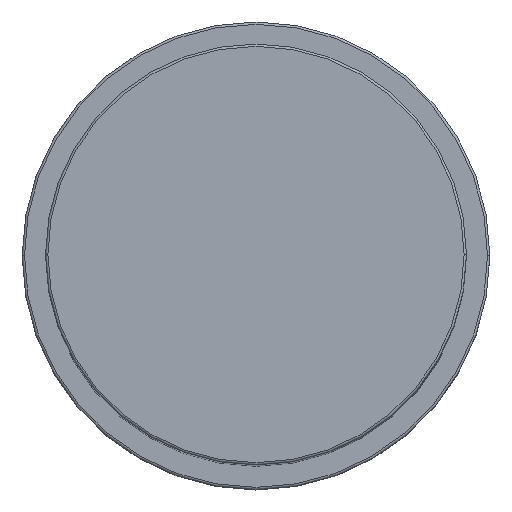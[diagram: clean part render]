
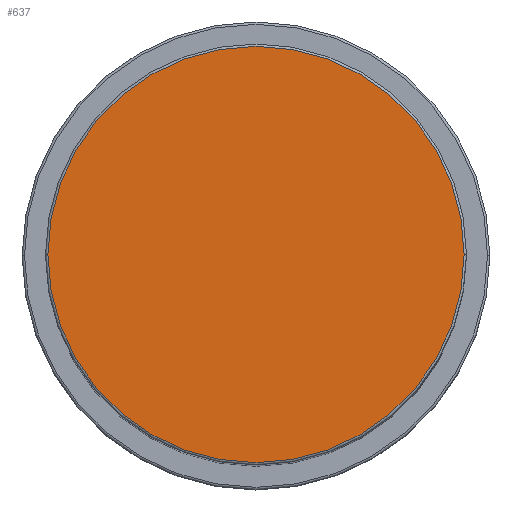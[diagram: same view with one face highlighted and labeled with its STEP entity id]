
A CAD part, top view. The second image highlights one B-rep face of the part: STEP entity #637.
In plain terms, the highlighted planar face has unit normal (0, 0, 1).
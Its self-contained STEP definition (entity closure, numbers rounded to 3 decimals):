
#11 = VERTEX_POINT ( 'NONE', #866 ) ;
#76 = AXIS2_PLACEMENT_3D ( 'NONE', #367, #1139, #1384 ) ;
#83 = CIRCLE ( 'NONE', #1492, 44.5 ) ;
#95 = ORIENTED_EDGE ( 'NONE', *, *, #1445, .T. ) ;
#175 = CARTESIAN_POINT ( 'NONE',  ( 44.5, 0., 184. ) ) ;
#287 = AXIS2_PLACEMENT_3D ( 'NONE', #1269, #1146, #870 ) ;
#367 = CARTESIAN_POINT ( 'NONE',  ( 0., 0., 184. ) ) ;
#615 = PLANE ( 'NONE',  #76 ) ;
#637 = ADVANCED_FACE ( 'NONE', ( #842 ), #615, .T. ) ;
#842 = FACE_OUTER_BOUND ( 'NONE', #945, .T. ) ;
#860 = VERTEX_POINT ( 'NONE', #175 ) ;
#866 = CARTESIAN_POINT ( 'NONE',  ( -44.5, 0., 184. ) ) ;
#870 = DIRECTION ( 'NONE',  ( 1., 0., 0. ) ) ;
#945 = EDGE_LOOP ( 'NONE', ( #1322, #95 ) ) ;
#1046 = EDGE_CURVE ( 'NONE', #860, #11, #83, .T. ) ;
#1139 = DIRECTION ( 'NONE',  ( 0., 0., 1. ) ) ;
#1144 = CARTESIAN_POINT ( 'NONE',  ( 0., 0., 184. ) ) ;
#1146 = DIRECTION ( 'NONE',  ( 0., 0., 1. ) ) ;
#1269 = CARTESIAN_POINT ( 'NONE',  ( 0., 0., 184. ) ) ;
#1322 = ORIENTED_EDGE ( 'NONE', *, *, #1046, .T. ) ;
#1384 = DIRECTION ( 'NONE',  ( 1., 0., 0. ) ) ;
#1445 = EDGE_CURVE ( 'NONE', #11, #860, #1607, .T. ) ;
#1492 = AXIS2_PLACEMENT_3D ( 'NONE', #1144, #1525, #1661 ) ;
#1525 = DIRECTION ( 'NONE',  ( 0., 0., 1. ) ) ;
#1607 = CIRCLE ( 'NONE', #287, 44.5 ) ;
#1661 = DIRECTION ( 'NONE',  ( 1., 0., 0. ) ) ;
